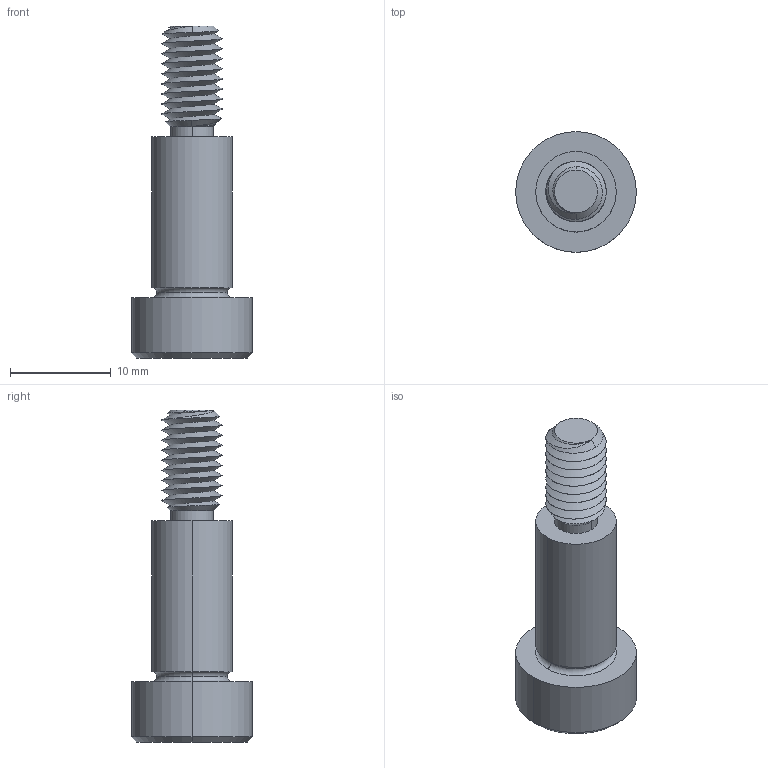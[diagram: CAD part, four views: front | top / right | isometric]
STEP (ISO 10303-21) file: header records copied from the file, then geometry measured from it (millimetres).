
FILE_DESCRIPTION (( 'STEP AP203' ), '1' );
FILE_NAME ('P0130.080-016-B2.step', '2021-11-09T21:37:21', ( '' ), ( '' ), 'SwSTEP 2.0', 'SolidWorks 2019', '' );
FILE_SCHEMA (( 'CONFIG_CONTROL_DESIGN' ));
Length unit declared in the file: millimetre
Products named in the file (1): P0130.080-016-B2
Bounding box: 12 x 12 x 33 mm (x, y, z)
Volume: 1630.8 mm3; surface area: 1235 mm2
Topology: 1 solids, 1 shells, 60 faces, 142 edges, 85 vertices
Faces by surface type: cylinder 24, plane 16, cone 14, torus 4, bspline 2
Entity records: 4245 total; most frequent: CARTESIAN_POINT 2899, ORIENTED_EDGE 280, DIRECTION 247, EDGE_CURVE 140, AXIS2_PLACEMENT_3D 99, VERTEX_POINT 85, EDGE_LOOP 63, FACE_OUTER_BOUND 60
